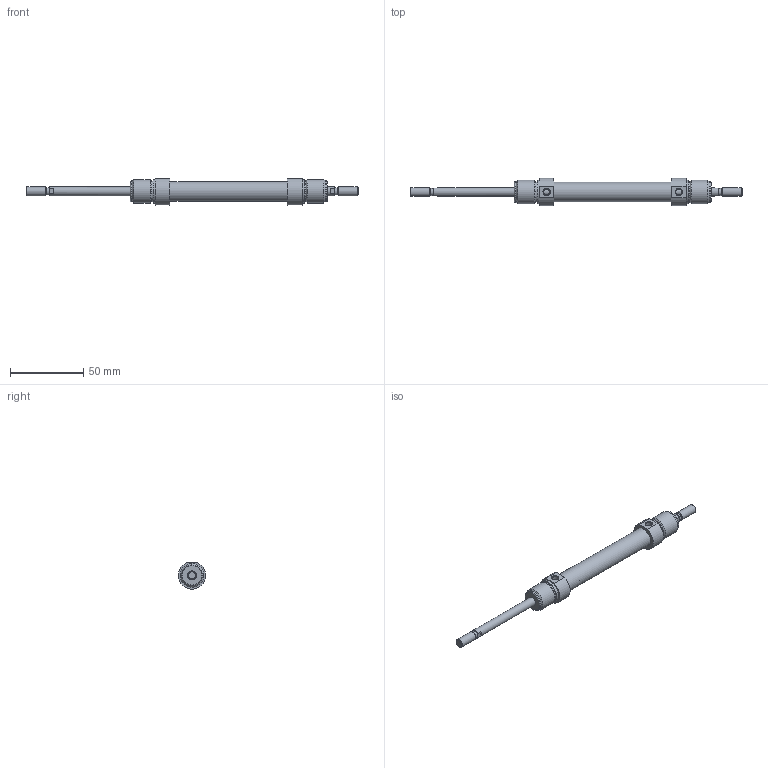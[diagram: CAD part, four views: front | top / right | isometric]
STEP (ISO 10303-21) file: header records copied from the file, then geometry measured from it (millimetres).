
FILE_DESCRIPTION( ( 'STEP AP203' ), '1' );
FILE_NAME( '//expscmdclustefs.cadenas.external/client_exchange/iodir/jobs/output/wkb68359066_no0/STEP/M101-012-0050--__0__2_03.stp', ' ', ( ' ' ), ( ' ' ), 'PSStep 15.0.47', 'PARTsolutions', ' ' );
FILE_SCHEMA( ( 'CONFIG_CONTROL_DESIGN' ) );
Length unit declared in the file: millimetre
Products named in the file (3): M101-012-0050-- [0]; HI_M101-012-0050---[0]-z; HI_M101-012-0050---[0]-k
Assembly tree (2 placements, depth 2):
  M101-012-0050-- [0]
    HI_M101-012-0050---[0]-z
    HI_M101-012-0050---[0]-k
Bounding box: 226 x 18.73 x 17.86 mm (x, y, z)
Volume: 21254.1 mm3; surface area: 15438.8 mm2
Topology: 2 solids, 2 shells, 65 faces, 129 edges, 80 vertices
Faces by surface type: plane 26, cylinder 23, cone 14, torus 2
Full cylindrical faces by diameter (mm): 4.134 x2, 4.773 x2, 6 x6, 12 x2, 13.3 x1, 14.16 x4, 16 x4
Entity records: 1670 total; most frequent: CARTESIAN_POINT 324, DIRECTION 280, ORIENTED_EDGE 184, AXIS2_PLACEMENT_3D 128, EDGE_LOOP 116, EDGE_CURVE 92, FACE_OUTER_BOUND 88, VERTEX_POINT 76
